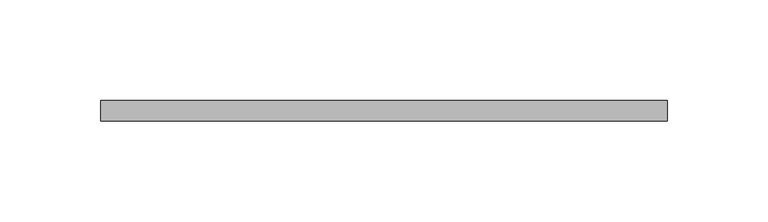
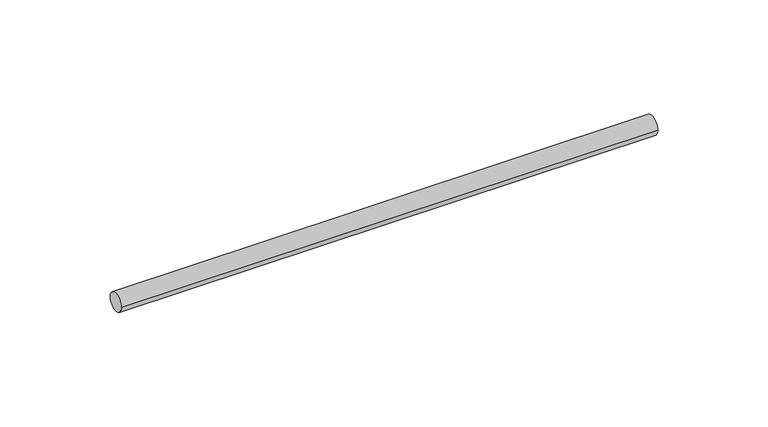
"""IFC4 building model written with IfcOpenShell, lengths in millimetres: valve geometry, Superfix Threaded Rod (used for clamps) : Threaded Rod  Extra  - 1000 mm (used for clamps)."""

from ifc_helpers import new_model, si_unit, point, frame, origin, origin_2d, place, context, project, spatial, circle_curve, trimmed, segment, composite_curve, outline, extrude, source, transform, mapped, element, save


def valve_ca73bad7(model_context):
    return source(origin(), model_context, "Body", "SweptSolid", [
        extrude(outline(composite_curve([segment(trimmed(circle_curve(origin_2d(), 5.0), [point((-5.0, 0.0))], [point((5.0, 0.0))], False, "CARTESIAN"), True, "CONTINUOUS"), segment(trimmed(circle_curve(origin_2d(), 5.0), [point((5.0, 0.0))], [point((-5.0, 0.0))], False, "CARTESIAN"), True, "CONTINUOUS")], self_intersect=False)), frame((-10.0, 0.0, 0.0), z_axis=(1.0, 0.0, 0.0), x_axis=(0.0, 1.0, 0.0)), (0.0, 0.0, 1.0), 280.5002332),
    ])


if __name__ == "__main__":
    model = new_model("IFC4")
    model_context = context("Model", 3, world=origin())
    ifc_project = project(units=[si_unit("LENGTHUNIT", "METRE", prefix="MILLI")], contexts=[model_context])
    site = spatial("IfcSite", under=ifc_project)
    building = spatial("IfcBuilding", under=site)
    placement = place(None, origin())
    valve_shape = valve_ca73bad7(model_context)
    element("IfcValve", 1, ObjectType="Superfix Threaded Rod (used for clamps) : Threaded Rod  Extra  - 1000 mm (used for clamps)", at=placement, inside=building, context=model_context, shape_type="MappedRepresentation", body=[
        mapped(valve_shape, transform((0.0, 0.0, 0.0), x_axis=(1.0, 0.0, 0.0), y_axis=(0.0, 1.0, 0.0), z_axis=(0.0, 0.0, 1.0))),
    ])
    save(model, "model.ifc")
